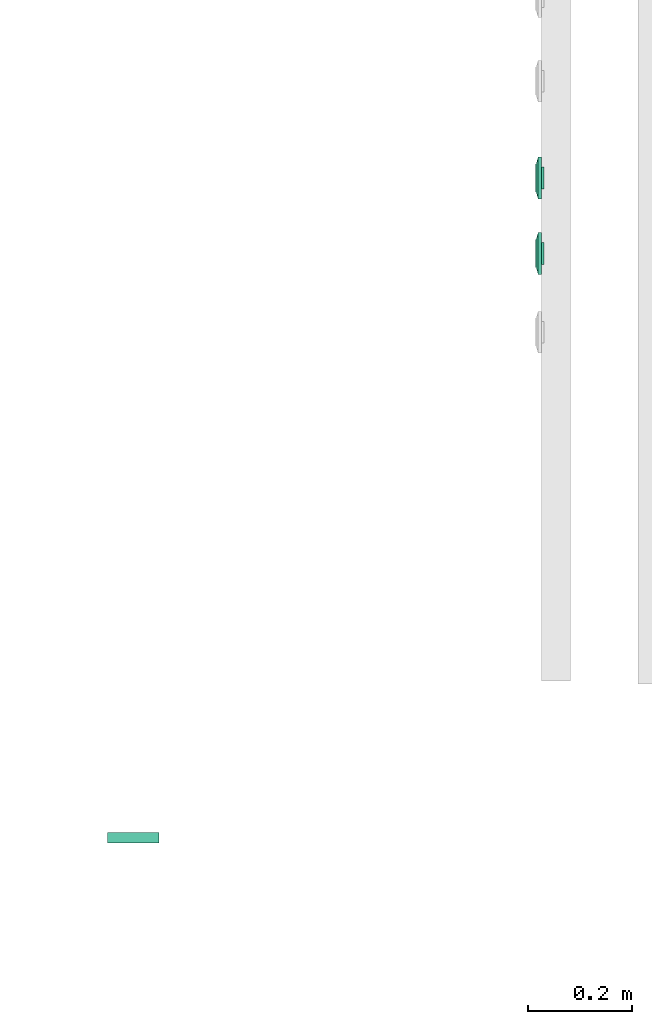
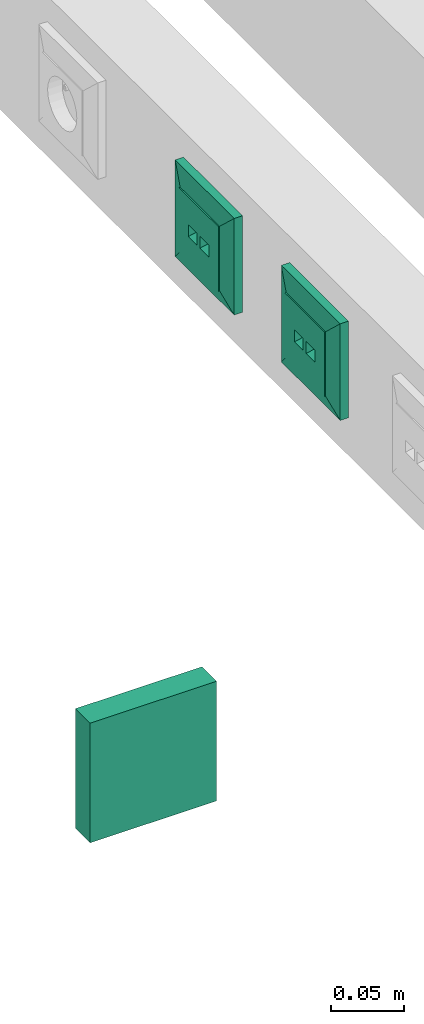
# One storey, part 37 of 166: 3 flow terminals.
"""IFC2X3 building model written with IfcOpenShell, lengths in metres."""

from ifc_helpers import new_model, entity, si_unit, converted_unit, derived_unit, direction, frame, origin, origin_2d_with_axis, place, context, subcontext, project, spatial, rectangle, extrude, faceted_brep, source, transform, mapped, type_object, type_shapes, element, save


model = new_model("IFC2X3")

# Units and contexts
model_context = context("Model", 3, precision=1e-05, world=origin(), true_north=direction((6.12303176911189e-17, 1.0)))
body_context = subcontext(model_context, "Body", "Model", "MODEL_VIEW")
ifc_project = project(units=[si_unit("LENGTHUNIT", "METRE"), si_unit("AREAUNIT", "SQUARE_METRE"), si_unit("VOLUMEUNIT", "CUBIC_METRE"), converted_unit("PLANEANGLEUNIT", "DEGREE", entity("IfcRatioMeasure", 0.0174532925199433), si_unit("PLANEANGLEUNIT", "RADIAN"), dimensions=[0, 0, 0, 0, 0, 0, 0]), si_unit("MASSUNIT", "GRAM", prefix="KILO"), derived_unit("MASSDENSITYUNIT", [(si_unit("MASSUNIT", "GRAM", prefix="KILO"), 1), (si_unit("LENGTHUNIT", "METRE"), -3)]), si_unit("TIMEUNIT", "SECOND"), si_unit("FREQUENCYUNIT", "HERTZ"), si_unit("THERMODYNAMICTEMPERATUREUNIT", "DEGREE_CELSIUS"), derived_unit("THERMALTRANSMITTANCEUNIT", [(si_unit("MASSUNIT", "GRAM", prefix="KILO"), 1), (si_unit("THERMODYNAMICTEMPERATUREUNIT", "KELVIN"), -1), (si_unit("TIMEUNIT", "SECOND"), -3)]), derived_unit("VOLUMETRICFLOWRATEUNIT", [(si_unit("LENGTHUNIT", "METRE"), 3), (si_unit("TIMEUNIT", "SECOND"), -1)]), si_unit("ELECTRICCURRENTUNIT", "AMPERE"), si_unit("ELECTRICVOLTAGEUNIT", "VOLT"), si_unit("POWERUNIT", "WATT"), si_unit("FORCEUNIT", "NEWTON"), si_unit("ILLUMINANCEUNIT", "LUX"), si_unit("LUMINOUSFLUXUNIT", "LUMEN"), si_unit("LUMINOUSINTENSITYUNIT", "CANDELA"), derived_unit("USERDEFINED", [(si_unit("MASSUNIT", "GRAM", prefix="KILO"), -1), (si_unit("LENGTHUNIT", "METRE"), -2), (si_unit("TIMEUNIT", "SECOND"), 3), (si_unit("LUMINOUSFLUXUNIT", "LUMEN"), 1)]), derived_unit("LINEARVELOCITYUNIT", [(si_unit("LENGTHUNIT", "METRE"), 1), (si_unit("TIMEUNIT", "SECOND"), -1)]), si_unit("PRESSUREUNIT", "PASCAL"), derived_unit("USERDEFINED", [(si_unit("LENGTHUNIT", "METRE"), -2), (si_unit("MASSUNIT", "GRAM", prefix="KILO"), 1), (si_unit("TIMEUNIT", "SECOND"), -2)])], contexts=[model_context])

# Site, building, storey
site_placement = place(None, origin())
site = spatial("IfcSite", under=ifc_project, at=site_placement, Name="Default", CompositionType="ELEMENT")
building_placement = place(site_placement, origin())
building = spatial("IfcBuilding", under=site, at=building_placement, CompositionType="ELEMENT")
storey_placement = place(building_placement, frame((0.0, 0.0, 4.27)))
storey = spatial("IfcBuildingStorey", under=building, at=storey_placement, Name="01", CompositionType="ELEMENT", Elevation=4.27)

# Flow terminals
electric_appliance_type = type_object("IfcElectricApplianceType", Name="RJ45 IP20", PredefinedType="NOTDEFINED")
shared_shape_1 = source(origin(), body_context, "Body", "Brep", [
    faceted_brep([(0.00200000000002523, 0.0, 0.00799999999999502), (0.00400000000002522, 0.0, 0.00799999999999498), (0.00500000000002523, 0.00199999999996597, 0.00799999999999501), (0.0110000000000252, 0.00199999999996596, 0.00799999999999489), (0.0120000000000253, 0.0, 0.00799999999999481), (0.0140000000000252, 0.0, 0.00799999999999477), (0.0140000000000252, 0.00399999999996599, 0.00799999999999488), (0.00200000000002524, 0.00399999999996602, 0.00799999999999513), (0.00200000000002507, 0.0, 0.0), (0.00200000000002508, 0.00399999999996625, 0.0), (0.0140000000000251, 0.00399999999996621, 0.0), (0.0140000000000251, 0.0, 0.0), (0.0120000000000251, 0.0, 0.0), (0.0110000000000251, 0.00199999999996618, 0.0), (0.00500000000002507, 0.0019999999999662, 0.0), (0.00400000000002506, 0.0, 0.0)], [[[0, 1, 2, 3, 4, 5, 6, 7]], [[8, 9, 10, 11, 12, 13, 14, 15]], [[1, 0, 8, 15]], [[2, 1, 15, 14]], [[3, 2, 14, 13]], [[4, 3, 13, 12]], [[5, 4, 12, 11]], [[6, 5, 11, 10]], [[7, 6, 10, 9]], [[0, 7, 9, 8]]]),
    faceted_brep([(-0.0139999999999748, 0.0, 0.00799999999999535), (-0.0119999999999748, 0.0, 0.00799999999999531), (-0.0109999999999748, 0.00199999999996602, 0.00799999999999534), (-0.00499999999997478, 0.00199999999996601, 0.00799999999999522), (-0.0039999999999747, 0.0, 0.00799999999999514), (-0.00199999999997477, 0.0, 0.0079999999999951), (-0.00199999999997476, 0.00399999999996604, 0.00799999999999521), (-0.0139999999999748, 0.00399999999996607, 0.00799999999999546), (-0.0139999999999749, 0.0, 0.0), (-0.0139999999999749, 0.00399999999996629, 0.0), (-0.00199999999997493, 0.00399999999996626, 0.0), (-0.00199999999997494, 0.0, 0.0), (-0.00399999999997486, 0.0, 0.0), (-0.00499999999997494, 0.00199999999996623, 0.0), (-0.0109999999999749, 0.00199999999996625, 0.0), (-0.0119999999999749, 0.0, 0.0)], [[[0, 1, 2, 3, 4, 5, 6, 7]], [[8, 9, 10, 11, 12, 13, 14, 15]], [[1, 0, 8, 15]], [[2, 1, 15, 14]], [[3, 2, 14, 13]], [[4, 3, 13, 12]], [[5, 4, 12, 11]], [[6, 5, 11, 10]], [[7, 6, 10, 9]], [[0, 7, 9, 8]]]),
    faceted_brep([(0.0140000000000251, 0.00399999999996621, 0.0), (0.00200000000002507, 0.00399999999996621, 0.0), (0.00200000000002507, -0.00350000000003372, 0.0), (0.0140000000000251, -0.00350000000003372, 0.0), (0.0140000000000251, 0.00399999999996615, 0.00199999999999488), (0.00200000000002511, 0.00399999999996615, 0.00199999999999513), (0.00200000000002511, -0.00393859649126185, 0.00199999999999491), (0.0140000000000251, -0.00393859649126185, 0.00199999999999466), (0.0210000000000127, 0.0209999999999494, 0.00199999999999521), (-0.0209999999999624, 0.0209999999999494, 0.00199999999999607), (-0.0209999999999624, -0.0210000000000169, 0.00199999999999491), (0.0210000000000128, -0.0210000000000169, 0.00199999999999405), (-0.0139999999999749, 0.0039999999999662, 0.00199999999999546), (-0.0019999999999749, 0.0039999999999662, 0.00199999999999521), (-0.00199999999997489, -0.0039385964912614, 0.00199999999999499), (-0.0139999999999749, -0.00393859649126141, 0.00199999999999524), (0.0210000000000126, 0.0209999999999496, -0.00460000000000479), (0.0210000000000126, -0.0210000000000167, -0.00460000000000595), (-0.0209999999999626, -0.0210000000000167, -0.00460000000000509), (-0.0209999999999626, 0.0209999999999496, -0.00460000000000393), (-0.00199999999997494, 0.00399999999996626, 0.0), (-0.0139999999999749, 0.00399999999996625, 0.0), (-0.0139999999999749, -0.00350000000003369, 0.0), (-0.00199999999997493, -0.00350000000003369, 0.0)], [[[0, 1, 2, 3]], [[1, 0, 4, 5]], [[2, 1, 5, 6]], [[3, 2, 6, 7]], [[0, 3, 7, 4]], [[5, 4, 7, 6], [8, 9, 10, 11], [12, 13, 14, 15]], [[16, 17, 18, 19]], [[9, 8, 16, 19]], [[10, 9, 19, 18]], [[11, 10, 18, 17]], [[8, 11, 17, 16]], [[20, 21, 22, 23]], [[21, 20, 13, 12]], [[22, 21, 12, 15]], [[23, 22, 15, 14]], [[20, 23, 14, 13]]], outer=[[True], [True], [True], [True], [True], [False, True, False], [True], [True], [True], [True], [True], [True], [True], [True], [True], [True]]),
    faceted_brep([(0.0270000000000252, 0.026999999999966, 0.0113999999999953), (-0.0269999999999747, 0.026999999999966, 0.0113999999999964), (-0.0269999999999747, -0.0270000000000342, 0.0113999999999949), (0.0270000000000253, -0.0270000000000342, 0.0113999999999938), (0.0020000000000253, 0.00399999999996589, 0.0113999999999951), (0.0140000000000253, 0.00399999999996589, 0.0113999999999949), (0.0140000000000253, -0.00600000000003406, 0.0113999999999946), (0.0020000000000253, -0.00600000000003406, 0.0113999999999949), (-0.0139999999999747, 0.00399999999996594, 0.0113999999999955), (-0.00199999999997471, 0.00399999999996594, 0.0113999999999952), (-0.00199999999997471, -0.0060000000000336, 0.0113999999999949), (-0.0139999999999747, -0.00600000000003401, 0.0113999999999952), (0.0270000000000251, 0.0269999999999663, 0.00199999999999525), (0.0270000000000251, -0.0270000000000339, 0.00199999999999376), (-0.0269999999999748, -0.0270000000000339, 0.00199999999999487), (-0.0269999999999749, 0.0269999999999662, 0.00199999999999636), (0.0140000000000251, 0.00399999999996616, 0.00199999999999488), (0.00200000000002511, 0.00399999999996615, 0.00199999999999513), (0.00200000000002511, -0.00393859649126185, 0.00199999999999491), (0.0140000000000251, -0.00393859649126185, 0.00199999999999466), (-0.00199999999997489, 0.0039999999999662, 0.00199999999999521), (-0.0139999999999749, 0.0039999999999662, 0.00199999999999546), (-0.0139999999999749, -0.0039385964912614, 0.00199999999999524), (-0.00199999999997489, -0.0039385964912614, 0.00199999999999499)], [[[0, 1, 2, 3], [4, 5, 6, 7], [8, 9, 10, 11]], [[12, 13, 14, 15], [16, 17, 18, 19], [20, 21, 22, 23]], [[1, 0, 12, 15]], [[2, 1, 15, 14]], [[3, 2, 14, 13]], [[0, 3, 13, 12]], [[4, 17, 16, 5]], [[17, 4, 7, 18]], [[18, 7, 6, 19]], [[5, 16, 19, 6]], [[8, 21, 20, 9]], [[21, 8, 11, 22]], [[22, 11, 10, 23]], [[9, 20, 23, 10]]]),
    faceted_brep([(0.027000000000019, 0.0269999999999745, 0.00659999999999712), (-0.0269999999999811, 0.0269999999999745, 0.00659999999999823), (-0.026999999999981, -0.0270000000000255, 0.00659999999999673), (0.027000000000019, -0.0270000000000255, 0.00659999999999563), (0.040350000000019, 0.0403499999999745, 0.00659999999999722), (0.040350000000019, -0.0403500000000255, 0.00659999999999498), (-0.0403499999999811, -0.0403500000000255, 0.00659999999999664), (-0.0403499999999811, 0.0403499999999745, 0.00659999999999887), (-0.026999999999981, 0.0269999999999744, 0.0103999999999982), (0.027000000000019, 0.0269999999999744, 0.0103999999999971), (-0.026999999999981, -0.0270000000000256, 0.0103999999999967), (0.027000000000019, -0.0270000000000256, 0.0103999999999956)], [[[0, 1, 2, 3], [4, 5, 6, 7]], [[4, 7, 8, 9]], [[7, 6, 10, 8]], [[6, 5, 11, 10]], [[5, 4, 9, 11]], [[0, 9, 8, 1]], [[1, 8, 10, 2]], [[2, 10, 11, 3]], [[9, 0, 3, 11]]], outer=[[False, True], [True], [True], [True], [True], [True], [True], [True], [True]]),
    faceted_brep([(0.040350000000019, 0.0403499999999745, 0.00659999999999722), (-0.0403499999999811, 0.0403499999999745, 0.00659999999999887), (-0.0403499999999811, -0.0403500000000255, 0.00659999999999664), (0.040350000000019, -0.0403500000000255, 0.00659999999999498), (-0.0269999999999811, 0.0269999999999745, 0.00659999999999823), (0.0270000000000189, 0.0269999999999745, 0.00659999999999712), (0.0270000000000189, -0.0270000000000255, 0.00659999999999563), (-0.0269999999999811, -0.0270000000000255, 0.00659999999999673), (0.0403500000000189, 0.0403499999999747, 0.0), (0.0403500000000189, -0.0403500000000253, 0.0), (-0.0403499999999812, -0.0403500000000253, 0.0), (-0.0403499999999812, 0.0403499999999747, 0.0), (0.0270000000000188, 0.0269999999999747, 0.0), (-0.0269999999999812, 0.0269999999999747, 0.0), (-0.0269999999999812, -0.0270000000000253, 0.0), (0.0270000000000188, -0.0270000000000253, 0.0)], [[[0, 1, 2, 3], [4, 5, 6, 7]], [[8, 9, 10, 11], [12, 13, 14, 15]], [[1, 0, 8, 11]], [[2, 1, 11, 10]], [[3, 2, 10, 9]], [[0, 3, 9, 8]], [[12, 5, 4, 13]], [[13, 4, 7, 14]], [[14, 7, 6, 15]], [[5, 12, 15, 6]]]),
])
type_shapes(electric_appliance_type, [shared_shape_1])
for number, where, z_axis, x_axis in (
    (1, (33.3667436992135, -192.373423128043, 4.70800000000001), (-1.0, 0.0, 0.0), (0.0, -1.0, 0.0)),
    (2, (33.3667436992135, -192.228264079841, 4.70800000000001), (-1.0, 0.0, 0.0), (0.0, -1.0, 0.0)),
):
    element("IfcFlowTerminal", number, at=place(building_placement, frame(where, z_axis=z_axis, x_axis=x_axis)), inside=storey, type_object=electric_appliance_type, Name="INT_Prise RJ45:RJ45 IP20", ObjectType="INT_Prise RJ45:RJ45 IP20", context=body_context, shape_type="MappedRepresentation", body=[
        mapped(shared_shape_1, transform((0.0, 0.0, 0.0), scale=1.0)),
    ])
light_fixture_type = type_object("IfcLightFixtureType", Name="Default", PredefinedType="NOTDEFINED")
shared_shape_2 = source(origin(), body_context, "Body", "SweptSolid", [
    extrude(rectangle(XDim=0.1, YDim=0.1, at=origin_2d_with_axis()), frame((0.0, 0.0, 0.0), z_axis=(0.0, 0.0, 1.0), x_axis=(0.0, 1.0, 0.0)), (0.0, 0.0, 1.0), 0.02),
])
type_shapes(light_fixture_type, [shared_shape_2])
flow_terminal_placement = place(building_placement, frame((32.5797436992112, -193.489651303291, 5.32000000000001), z_axis=(0.0, -1.0, 0.0), x_axis=(1.0, 0.0, 0.0)))
element("IfcFlowTerminal", 3, at=flow_terminal_placement, inside=storey, type_object=light_fixture_type, Name="E_Reader_Badge 1_F_MEPcontent:Default", ObjectType="E_Reader_Badge 1_F_MEPcontent:Default", context=body_context, shape_type="MappedRepresentation", body=[
    mapped(shared_shape_2, transform((0.0, 0.0, 0.0), scale=1.0)),
])

save(model, "model.ifc")
